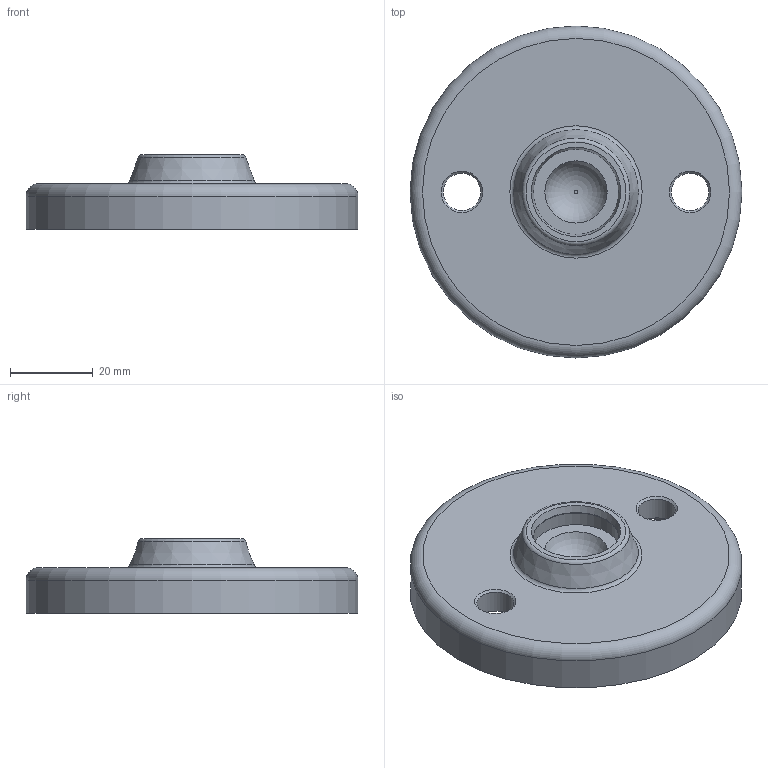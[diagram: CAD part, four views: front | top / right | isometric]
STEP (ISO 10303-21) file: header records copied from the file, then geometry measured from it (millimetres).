
FILE_DESCRIPTION(('STEP AP203'), '1');
FILE_NAME('À00016.4080', '', ('UNSPECIFIED'), ('UNSPECIFIED'), 'C3D Converter', 'C3D Toolkit', '');
FILE_SCHEMA(('CONFIG_CONTROL_DESIGN'));
Length unit declared in the file: millimetre
Products named in the file (1): А00016.4080
Bounding box: 80 x 80 x 18 mm (x, y, z)
Volume: 37467.7 mm3; surface area: 14639.1 mm2
Topology: 1 solids, 1 shells, 25 faces, 43 edges, 26 vertices
Faces by surface type: plane 8, cylinder 6, cone 6, torus 5
Full cylindrical faces by diameter (mm): 9 x2, 15 x1, 21 x1, 70 x1, 80 x1
Entity records: 557 total; most frequent: DIRECTION 104, CARTESIAN_POINT 78, AXIS2_PLACEMENT_3D 52, EDGE_LOOP 52, ORIENTED_EDGE 52, FACE_OUTER_BOUND 34, EDGE_CURVE 26, VERTEX_POINT 26
